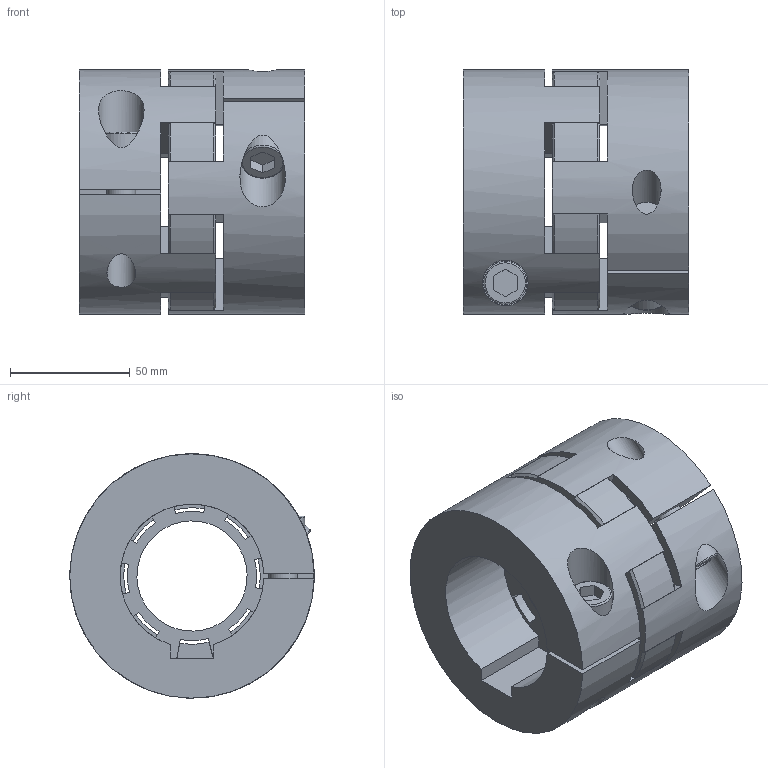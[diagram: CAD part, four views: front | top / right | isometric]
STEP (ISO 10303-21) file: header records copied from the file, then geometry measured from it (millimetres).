
FILE_DESCRIPTION(/* description */ ('STEP AP214'),/* implementation_level */ '2;1');
FILE_NAME(/* name */ 'C:\Diequa Files\DieQua Coupling\ECC\STP\ECC.450.ABC.#.#.stp',/* time_stamp */ '2018-12-07T11:19:30-06:00',/* author */ ('DiequaCAD'),/* organization */ (''),/* preprocessor_version */ 'ST-DEVELOPER v17.2',/* originating_system */ 'Autodesk Inventor 2019',/* authorisation */ ' ');
FILE_SCHEMA (('AUTOMOTIVE_DESIGN { 1 0 10303 214 3 1 1 }'));
Length unit declared in the file: millimetre
Products named in the file (4): EKL_450_A_60_PFN_60_PFN_31; 2018_11_29__15-36-50-774; 2018_11_29__15-36-50-774_1; 2018_11_29__15-36-50-774_2
Assembly tree (3 placements, depth 2):
  EKL_450_A_60_PFN_60_PFN_31
    2018_11_29__15-36-50-774
    2018_11_29__15-36-50-774_1
    2018_11_29__15-36-50-774_2
Bounding box: 94 x 102 x 102 mm (x, y, z)
Volume: 482448.2 mm3; surface area: 101454.8 mm2
Topology: 3 solids, 3 shells, 153 faces, 417 edges, 280 vertices
Faces by surface type: plane 94, cylinder 41, cone 16, torus 2
Full cylindrical faces by diameter (mm): 12 x4, 12.5 x2, 18 x2, 19 x2, 46 x1
Entity records: 5191 total; most frequent: CARTESIAN_POINT 1013, DIRECTION 877, ORIENTED_EDGE 834, EDGE_CURVE 417, AXIS2_PLACEMENT_3D 308, VERTEX_POINT 280, LINE 261, VECTOR 261
